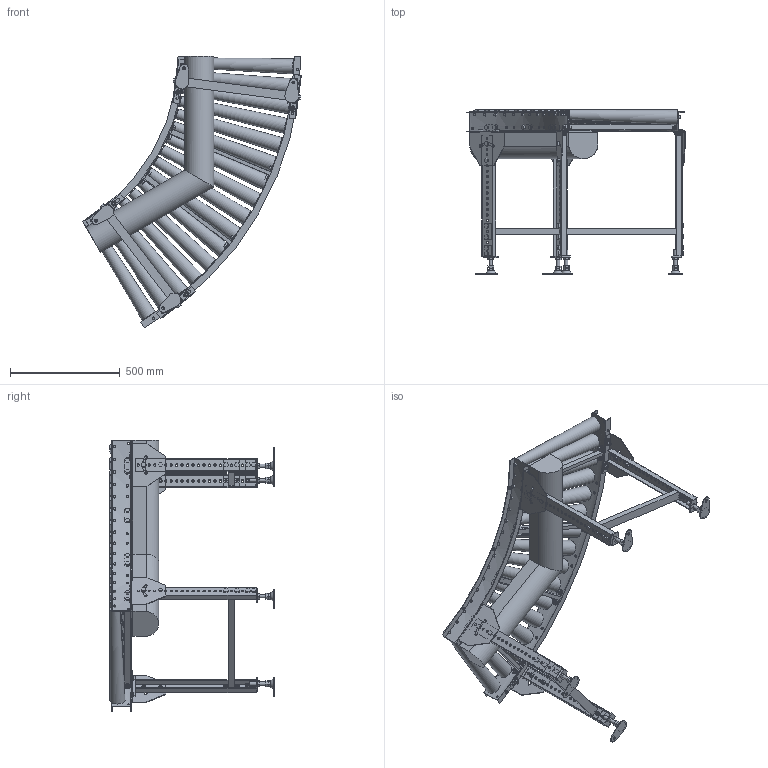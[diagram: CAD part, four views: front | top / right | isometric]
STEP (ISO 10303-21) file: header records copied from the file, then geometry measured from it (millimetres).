
FILE_DESCRIPTION( (''), '2;1');
FILE_NAME ('WEB-MCD-50-500-75-60°-C9.stp','2025-06-26T16:59:05',(''),(''),'spGate 20.6.2 (****-****-****-****)','','');
FILE_SCHEMA (('AUTOMOTIVE_DESIGN'));
Length unit declared in the file: millimetre
Products named in the file (36): WEB-MCD-50-500-75-60_-C9; TEMP_X_T-prt0; TEMP_X_T-prt1; TEMP_X_T-prt2; TEMP_X_T-prt3; TEMP_X_T-prt4; TEMP_X_T-prt5; TEMP_X_T-prt6; TEMP_X_T-prt7; TEMP_X_T-prt8; TEMP_X_T-prt9; TEMP_X_T-prt10; TEMP_X_T-prt11; TEMP_X_T-prt12; TEMP_X_T-prt13; TEMP_X_T-prt14; TEMP_X_T-prt15; TEMP_X_T-prt16; TEMP_X_T-prt17; TEMP_X_T-prt18; TEMP_X_T-prt19; TEMP_X_T-prt20; TEMP_X_T-prt21; TEMP_X_T-prt22; TEMP_X_T-prt23; TEMP_X_T-prt24; TEMP_X_T-prt25; TEMP_X_T-prt26; TEMP_X_T-prt27; TEMP_X_T-prt28; TEMP_X_T-prt29; TEMP_X_T-prt30; TEMP_X_T-prt31; TEMP_X_T-prt32; TEMP_X_T-prt33; TEMP_X_T-prt34
Assembly tree (35 placements, depth 2):
  WEB-MCD-50-500-75-60_-C9
    TEMP_X_T-prt0
    TEMP_X_T-prt1
    TEMP_X_T-prt2
    TEMP_X_T-prt3
    TEMP_X_T-prt4
    TEMP_X_T-prt5
    TEMP_X_T-prt6
    TEMP_X_T-prt7
    TEMP_X_T-prt8
    TEMP_X_T-prt9
    TEMP_X_T-prt10
    TEMP_X_T-prt11
    TEMP_X_T-prt12
    TEMP_X_T-prt13
    TEMP_X_T-prt14
    TEMP_X_T-prt15
    TEMP_X_T-prt16
    TEMP_X_T-prt17
    TEMP_X_T-prt18
    TEMP_X_T-prt19
    TEMP_X_T-prt20
    TEMP_X_T-prt21
    TEMP_X_T-prt22
    TEMP_X_T-prt23
    TEMP_X_T-prt24
    TEMP_X_T-prt25
    TEMP_X_T-prt26
    TEMP_X_T-prt27
    TEMP_X_T-prt28
    TEMP_X_T-prt29
    TEMP_X_T-prt30
    TEMP_X_T-prt31
    TEMP_X_T-prt32
    TEMP_X_T-prt33
    TEMP_X_T-prt34
Bounding box: 997.18 x 749.97 x 1238.42 mm (x, y, z)
Volume: 41202994.7 mm3; surface area: 3944456.7 mm2
Topology: 35 solids, 55 shells, 2221 faces, 5376 edges, 3470 vertices
Faces by surface type: plane 1838, cylinder 363, bspline 20
Full cylindrical faces by diameter (mm): 8.5 x4, 10 x56, 10.5 x92, 11 x14, 12 x32, 13 x4, 14 x7, 16 x4, 18.4 x40, 18.5 x8, 21 x28
Entity records: 113795 total; most frequent: CARTESIAN_POINT 15624, DIRECTION 11112, ORIENTED_EDGE 10752, COLOUR_RGB 7632, PRESENTATION_STYLE_ASSIGNMENT 7632, STYLED_ITEM 7632, EDGE_CURVE 5376, DRAUGHTING_PRE_DEFINED_CURVE_FONT 5376
